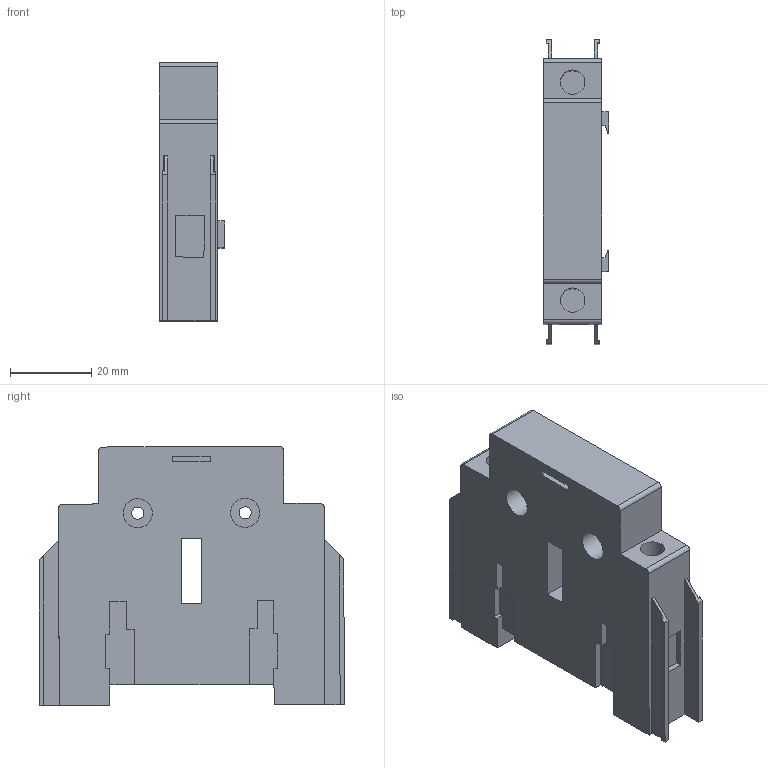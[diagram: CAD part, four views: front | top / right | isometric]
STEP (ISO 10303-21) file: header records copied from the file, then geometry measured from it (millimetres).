
FILE_DESCRIPTION (( 'STEP AP203' ), '1' );
FILE_NAME ('Ïîëþñ ÷åòâåðòûé OptiSwitch DI-16-63C-4_L.STEP', '2023-02-21T21:52:45', ( 'Ïîëüçîâàòåëü' ), ( '' ), 'SwSTEP 2.0', 'SolidWorks 2018', '' );
FILE_SCHEMA (( 'CONFIG_CONTROL_DESIGN' ));
Length unit declared in the file: millimetre
Products named in the file (2): Ïîëþñ ÷åòâåðòûé OptiSwitch DI-16-63C-4_L; Ïîëþñ ÷åòâåðòûé OptiSwitch DI-16-63
Assembly tree (1 placements, depth 2):
  Ïîëþñ ÷åòâåðòûé OptiSwitch DI-16-63C-4_L
    Ïîëþñ ÷åòâåðòûé OptiSwitch DI-16-63
Bounding box: 16 x 75 x 63.67 mm (x, y, z)
Volume: 47602.7 mm3; surface area: 16177.8 mm2
Topology: 3 solids, 3 shells, 146 faces, 379 edges, 253 vertices
Faces by surface type: plane 131, cylinder 9, bspline 6
Full cylindrical faces by diameter (mm): 3 x2, 6 x4, 7.154 x2
Entity records: 4553 total; most frequent: CARTESIAN_POINT 848, ORIENTED_EDGE 738, DIRECTION 663, EDGE_CURVE 369, VECTOR 339, LINE 339, VERTEX_POINT 251, EDGE_LOOP 174
